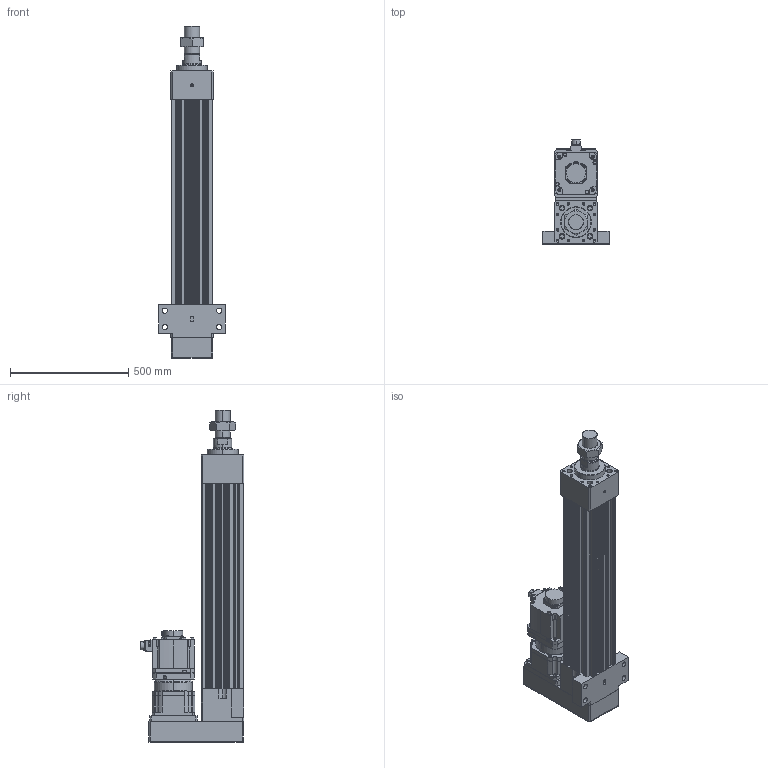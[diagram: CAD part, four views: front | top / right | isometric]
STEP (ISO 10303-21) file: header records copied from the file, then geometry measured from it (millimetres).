
FILE_DESCRIPTION (( 'STEP AP203' ), '1' );
FILE_NAME ('HES180HS-P550-W050G00-M-FFC.STEP', '2023-02-01T07:25:51', ( 'tms' ), ( '' ), 'SwSTEP 2.0', 'SolidWorks 2013', '' );
FILE_SCHEMA (( 'CONFIG_CONTROL_DESIGN' ));
Length unit declared in the file: millimetre
Products named in the file (9): P1301600001; HES180 ROD M ST550; HES180HS-P550-W050G00-M-FFC; AB1801; P0403600401; HES180-P550-G180-FFC; HG-SR502; M64X2.0P; AB180-003[HG-SR702B]
Assembly tree (8 placements, depth 3):
  HES180HS-P550-W050G00-M-FFC
    HES180-P550-G180-FFC
    HES180 ROD M ST550
    M64X2.0P
    AB180-003[HG-SR702B]
      AB1801
      P1301600001
      P0403600401
    HG-SR502
Bounding box: 280 x 438.85 x 1402 mm (x, y, z)
Volume: 30595880.8 mm3; surface area: 2699307.6 mm2
Topology: 4 solids, 19 shells, 1474 faces, 3821 edges, 2463 vertices
Faces by surface type: cylinder 686, plane 553, cone 168, bspline 63, torus 4
Entity records: 53682 total; most frequent: CARTESIAN_POINT 16162, DIRECTION 7905, ORIENTED_EDGE 7498, EDGE_CURVE 3773, AXIS2_PLACEMENT_3D 2986, VERTEX_POINT 2463, VECTOR 1933, LINE 1933
